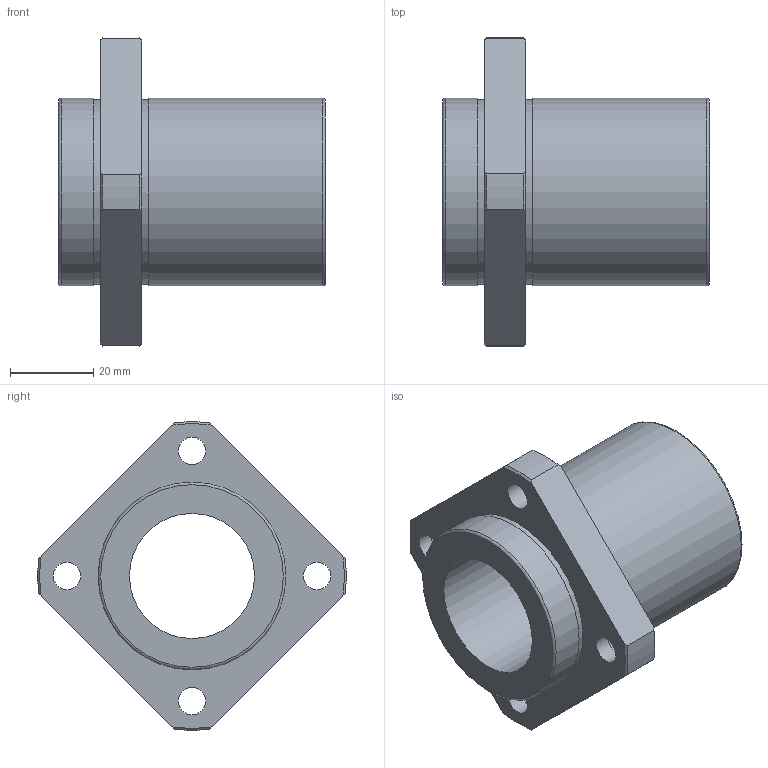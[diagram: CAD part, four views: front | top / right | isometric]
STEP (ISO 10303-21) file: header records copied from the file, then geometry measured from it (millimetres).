
FILE_DESCRIPTION(('STEP AP203'),'1');
FILE_NAME('//192.168.1.1/share/s-4 技術開発/s-4-4_CAD/s-4-4-3_見直し済み/002 修正済み/NFIS-V/NFIS-V_TOP/NFIS-30VUU.step','2022-03-08T02:22:46',(' '),(' '),'Spatial InterOp 3D',' ',' ');
FILE_SCHEMA(('CONFIG_CONTROL_DESIGN'));
Length unit declared in the file: millimetre
Products named in the file (1): 1
Bounding box: 64 x 73.95 x 73.95 mm (x, y, z)
Volume: 70645.7 mm3; surface area: 21975 mm2
Topology: 1 solids, 1 shells, 41 faces, 99 edges, 68 vertices
Faces by surface type: cylinder 17, plane 14, cone 8, torus 2
Full cylindrical faces by diameter (mm): 6.6 x4, 11 x4, 30 x1, 44.4 x2, 45 x2
Entity records: 1158 total; most frequent: CARTESIAN_POINT 226, DIRECTION 188, ORIENTED_EDGE 152, AXIS2_PLACEMENT_3D 86, EDGE_CURVE 76, EDGE_LOOP 74, VERTEX_POINT 60, FACE_OUTER_BOUND 56
